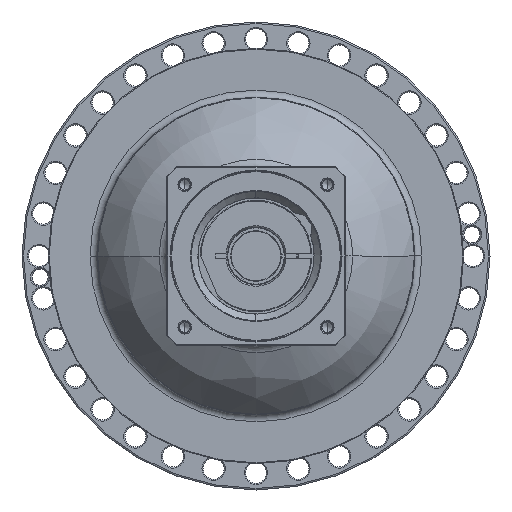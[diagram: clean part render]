
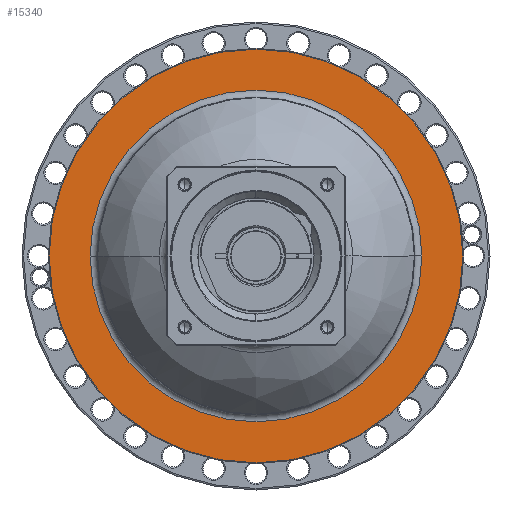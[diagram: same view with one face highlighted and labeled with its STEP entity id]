
A CAD part, left-side view. The second image highlights one B-rep face of the part: STEP entity #15340.
In plain terms, the highlighted planar face has unit normal (-1, 0, 0) as drawn and (1, 0, 0) by its records, which use the part's own axes.
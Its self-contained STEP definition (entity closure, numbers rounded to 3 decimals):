
#14843=CARTESIAN_POINT('',(-49.5,0.,0.));
#14844=DIRECTION('',(-1.,0.,0.));
#14845=DIRECTION('',(0.,1.,0.));
#14846=AXIS2_PLACEMENT_3D('',#14843,#14844,#14845);
#14858=CARTESIAN_POINT('',(-49.5,0.,0.));
#14859=DIRECTION('',(1.,0.,0.));
#14860=DIRECTION('',(0.,1.,0.));
#14861=AXIS2_PLACEMENT_3D('',#14858,#14859,#14860);
#14863=CARTESIAN_POINT('',(-49.5,0.,0.));
#14864=DIRECTION('',(-1.,0.,0.));
#14865=DIRECTION('',(0.,-1.,0.));
#14866=AXIS2_PLACEMENT_3D('',#14863,#14864,#14865);
#14868=CARTESIAN_POINT('',(-49.5,0.,0.));
#14869=DIRECTION('',(-1.,0.,0.));
#14870=DIRECTION('',(0.,1.,0.));
#14871=AXIS2_PLACEMENT_3D('',#14868,#14869,#14870);
#14993=CARTESIAN_POINT('',(-49.5,-133.5,0.));
#14994=CARTESIAN_POINT('',(-49.5,133.5,0.));
#14995=VERTEX_POINT('',#14993);
#14996=VERTEX_POINT('',#14994);
#15017=CARTESIAN_POINT('',(-49.5,107.,0.));
#15018=CARTESIAN_POINT('',(-49.5,-107.,0.));
#15019=VERTEX_POINT('',#15017);
#15020=VERTEX_POINT('',#15018);
#15325=CARTESIAN_POINT('',(-49.5,0.,0.));
#15326=DIRECTION('',(1.,0.,0.));
#15327=DIRECTION('',(0.,-1.,0.));
#15328=AXIS2_PLACEMENT_3D('',#15325,#15326,#15327);
#15329=PLANE('',#15328);
#15331=ORIENTED_EDGE('',*,*,#15330,.T.);
#15333=ORIENTED_EDGE('',*,*,#15332,.T.);
#15334=EDGE_LOOP('',(#15331,#15333));
#15335=FACE_OUTER_BOUND('',#15334,.F.);
#15336=ORIENTED_EDGE('',*,*,#15319,.T.);
#15337=ORIENTED_EDGE('',*,*,#15305,.F.);
#15338=EDGE_LOOP('',(#15336,#15337));
#15339=FACE_BOUND('',#15338,.F.);
#15340=ADVANCED_FACE('',(#15335,#15339),#15329,.T.);
#14847=CIRCLE('',#14846,107.);
#14862=CIRCLE('',#14861,107.);
#14867=CIRCLE('',#14866,133.5);
#14872=CIRCLE('',#14871,133.5);
#15305=EDGE_CURVE('',#15019,#15020,#14847,.T.);
#15319=EDGE_CURVE('',#15019,#15020,#14862,.T.);
#15330=EDGE_CURVE('',#14995,#14996,#14867,.T.);
#15332=EDGE_CURVE('',#14996,#14995,#14872,.T.);
